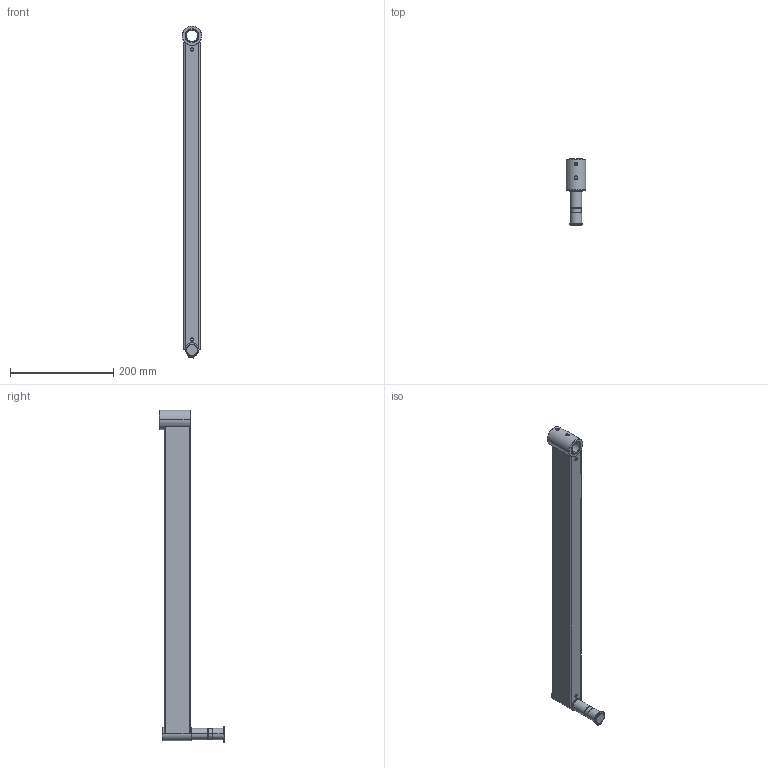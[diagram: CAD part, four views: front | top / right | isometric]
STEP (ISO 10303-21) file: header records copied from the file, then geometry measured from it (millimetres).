
FILE_DESCRIPTION (( 'STEP AP214' ), '1' );
FILE_NAME ('70-1024-00 REV AA, 24in RIGID SECTION.STEP', '2025-05-12T13:57:11', ( '' ), ( '' ), 'SwSTEP 2.0', 'SolidWorks 2025', '' );
FILE_SCHEMA (( 'AUTOMOTIVE_DESIGN' ));
Length unit declared in the file: inch
Products named in the file (8): 010-012-00, RETAINING RING, EXTERNAL, .875in SHAFT; 016-007-00, OILITE PLUS BEARING, 0.876 id x 1.002 od x 0.75 lg; 71-2113-RX REV AA, HOUSING, BEARING, TALL, 1.5OD_MACHINE; 71-1024-RX REV AA, HOUSING, 24in RIGID; 71-0022-RX REV AA, PIN, RIGID SECTION; 007-036-00, SHSS, 1''4-28, .25L_007-036-00; 016-008-00, OILITE PLUS BEARING, 0.876 id x 1.002 od x 1.25 lg; 70-1024-00 REV AA, 24in RIGID SECTION
Assembly tree (7 placements, depth 2):
  70-1024-00 REV AA, 24in RIGID SECTION
    71-1024-RX REV AA, HOUSING, 24in RIGID
    71-0022-RX REV AA, PIN, RIGID SECTION
    71-2113-RX REV AA, HOUSING, BEARING, TALL, 1.5OD_MACHINE
    016-007-00, OILITE PLUS BEARING, 0.876 id x 1.002 od x 0.75 lg
    016-008-00, OILITE PLUS BEARING, 0.876 id x 1.002 od x 1.25 lg
    007-036-00, SHSS, 1''4-28, .25L_007-036-00
    010-012-00, RETAINING RING, EXTERNAL, .875in SHAFT
Bounding box: 38.1 x 127.38 x 644.19 mm (x, y, z)
Volume: 289723.9 mm3; surface area: 215299.8 mm2
Topology: 7 solids, 7 shells, 174 faces, 411 edges, 250 vertices
Faces by surface type: cylinder 75, plane 42, cone 28, torus 26, bspline 3
Entity records: 6765 total; most frequent: CARTESIAN_POINT 2457, DIRECTION 909, ORIENTED_EDGE 814, EDGE_CURVE 407, AXIS2_PLACEMENT_3D 378, VERTEX_POINT 250, CIRCLE 197, EDGE_LOOP 197
